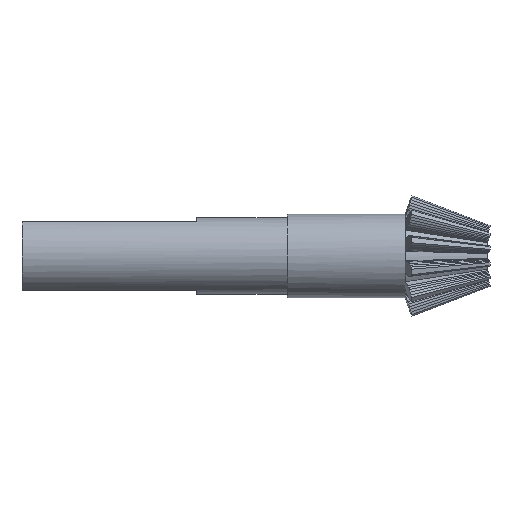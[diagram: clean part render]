
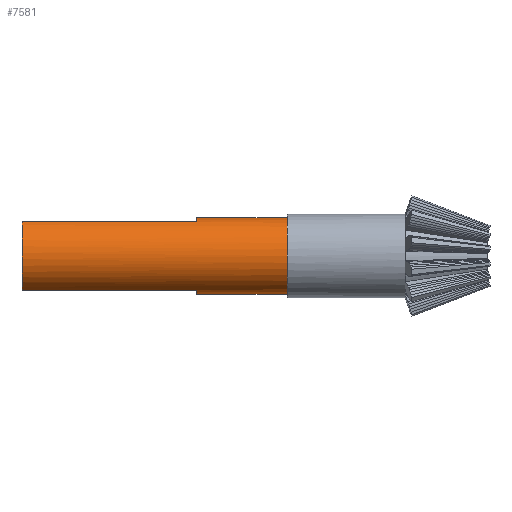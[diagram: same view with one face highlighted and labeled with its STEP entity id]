
A CAD part, left-side view. The second image highlights one B-rep face of the part: STEP entity #7581.
In plain terms, the highlighted cylindrical face has radius 5.5 mm (diameter 11 mm), a partial arc.
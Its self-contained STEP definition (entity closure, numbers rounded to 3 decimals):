
#58 = ORIENTED_EDGE ( 'NONE', *, *, #2852, .T. ) ;
#146 = CARTESIAN_POINT ( 'NONE',  ( 0., 53.914, 3.842 ) ) ;
#243 = VECTOR ( 'NONE', #4768, 1000. ) ;
#246 = DIRECTION ( 'NONE',  ( 0., 0., 1. ) ) ;
#361 = DIRECTION ( 'NONE',  ( 0., -1., 0. ) ) ;
#401 = AXIS2_PLACEMENT_3D ( 'NONE', #7081, #6420, #4668 ) ;
#801 = VERTEX_POINT ( 'NONE', #948 ) ;
#832 = CARTESIAN_POINT ( 'NONE',  ( 0., 53.914, 9.342 ) ) ;
#847 = VERTEX_POINT ( 'NONE', #4230 ) ;
#948 = CARTESIAN_POINT ( 'NONE',  ( 0., 40.914, 3.842 ) ) ;
#977 = DIRECTION ( 'NONE',  ( 0., 0., 1. ) ) ;
#995 = DIRECTION ( 'NONE',  ( 0., -1., 0. ) ) ;
#1082 = VERTEX_POINT ( 'NONE', #1220 ) ;
#1089 = CARTESIAN_POINT ( 'NONE',  ( -2.5, 53.914, 14.241 ) ) ;
#1220 = CARTESIAN_POINT ( 'NONE',  ( 0., 53.914, 14.842 ) ) ;
#1328 = DIRECTION ( 'NONE',  ( 0., 0., -1. ) ) ;
#1423 = CARTESIAN_POINT ( 'NONE',  ( -2.5, 78.914, 14.241 ) ) ;
#1490 = LINE ( 'NONE', #6251, #4145 ) ;
#1538 = EDGE_CURVE ( 'NONE', #5929, #3646, #7473, .T. ) ;
#1714 = EDGE_CURVE ( 'NONE', #5714, #2797, #3400, .T. ) ;
#1740 = CARTESIAN_POINT ( 'NONE',  ( 0., 53.914, 3.842 ) ) ;
#1867 = EDGE_CURVE ( 'NONE', #1082, #6267, #1490, .T. ) ;
#2266 = EDGE_CURVE ( 'NONE', #847, #5929, #7259, .T. ) ;
#2421 = CARTESIAN_POINT ( 'NONE',  ( -2.5, 78.914, 4.443 ) ) ;
#2474 = ORIENTED_EDGE ( 'NONE', *, *, #1867, .F. ) ;
#2595 = CARTESIAN_POINT ( 'NONE',  ( 0., 53.914, 9.342 ) ) ;
#2797 = VERTEX_POINT ( 'NONE', #7490 ) ;
#2852 = EDGE_CURVE ( 'NONE', #801, #6267, #3385, .T. ) ;
#3385 = CIRCLE ( 'NONE', #401, 5.5 ) ;
#3400 = CIRCLE ( 'NONE', #6020, 5.5 ) ;
#3459 = LINE ( 'NONE', #1740, #6079 ) ;
#3592 = CARTESIAN_POINT ( 'NONE',  ( 0., 53.914, 9.342 ) ) ;
#3643 = LINE ( 'NONE', #2421, #243 ) ;
#3646 = VERTEX_POINT ( 'NONE', #1089 ) ;
#3702 = ORIENTED_EDGE ( 'NONE', *, *, #1714, .F. ) ;
#4002 = ORIENTED_EDGE ( 'NONE', *, *, #5221, .T. ) ;
#4125 = DIRECTION ( 'NONE',  ( 0., -1., 0. ) ) ;
#4136 = FACE_OUTER_BOUND ( 'NONE', #4885, .T. ) ;
#4137 = AXIS2_PLACEMENT_3D ( 'NONE', #3592, #4294, #1328 ) ;
#4145 = VECTOR ( 'NONE', #361, 1000. ) ;
#4198 = ORIENTED_EDGE ( 'NONE', *, *, #1538, .F. ) ;
#4230 = CARTESIAN_POINT ( 'NONE',  ( -2.5, 78.914, 4.443 ) ) ;
#4294 = DIRECTION ( 'NONE',  ( 0., -1., 0. ) ) ;
#4347 = DIRECTION ( 'NONE',  ( 0., 1., 0. ) ) ;
#4351 = AXIS2_PLACEMENT_3D ( 'NONE', #2595, #4347, #6731 ) ;
#4508 = CARTESIAN_POINT ( 'NONE',  ( -2.5, 78.914, 14.241 ) ) ;
#4668 = DIRECTION ( 'NONE',  ( 0., 0., 1. ) ) ;
#4722 = CIRCLE ( 'NONE', #4351, 5.5 ) ;
#4768 = DIRECTION ( 'NONE',  ( 0., -1., 0. ) ) ;
#4885 = EDGE_LOOP ( 'NONE', ( #2474, #6808, #4198, #4968, #5607, #3702, #4002, #58 ) ) ;
#4968 = ORIENTED_EDGE ( 'NONE', *, *, #2266, .F. ) ;
#5148 = CARTESIAN_POINT ( 'NONE',  ( 0., 78.914, 9.342 ) ) ;
#5221 = EDGE_CURVE ( 'NONE', #5714, #801, #3459, .T. ) ;
#5525 = VECTOR ( 'NONE', #995, 1000. ) ;
#5607 = ORIENTED_EDGE ( 'NONE', *, *, #7178, .T. ) ;
#5714 = VERTEX_POINT ( 'NONE', #146 ) ;
#5929 = VERTEX_POINT ( 'NONE', #1423 ) ;
#6020 = AXIS2_PLACEMENT_3D ( 'NONE', #832, #6172, #246 ) ;
#6079 = VECTOR ( 'NONE', #4125, 1000. ) ;
#6172 = DIRECTION ( 'NONE',  ( 0., 1., 0. ) ) ;
#6251 = CARTESIAN_POINT ( 'NONE',  ( 0., 53.914, 14.842 ) ) ;
#6267 = VERTEX_POINT ( 'NONE', #7303 ) ;
#6420 = DIRECTION ( 'NONE',  ( 0., 1., 0. ) ) ;
#6591 = CYLINDRICAL_SURFACE ( 'NONE', #4137, 5.5 ) ;
#6731 = DIRECTION ( 'NONE',  ( 0., 0., 1. ) ) ;
#6790 = DIRECTION ( 'NONE',  ( 0., 1., 0. ) ) ;
#6808 = ORIENTED_EDGE ( 'NONE', *, *, #6916, .F. ) ;
#6885 = AXIS2_PLACEMENT_3D ( 'NONE', #5148, #6790, #977 ) ;
#6916 = EDGE_CURVE ( 'NONE', #3646, #1082, #4722, .T. ) ;
#7081 = CARTESIAN_POINT ( 'NONE',  ( 0., 40.914, 9.342 ) ) ;
#7178 = EDGE_CURVE ( 'NONE', #847, #2797, #3643, .T. ) ;
#7259 = CIRCLE ( 'NONE', #6885, 5.5 ) ;
#7303 = CARTESIAN_POINT ( 'NONE',  ( 0., 40.914, 14.842 ) ) ;
#7473 = LINE ( 'NONE', #4508, #5525 ) ;
#7490 = CARTESIAN_POINT ( 'NONE',  ( -2.5, 53.914, 4.443 ) ) ;
#7581 = ADVANCED_FACE ( 'NONE', ( #4136 ), #6591, .T. ) ;
